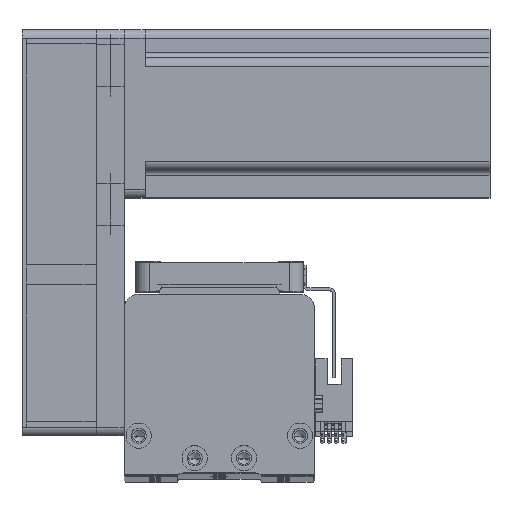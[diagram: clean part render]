
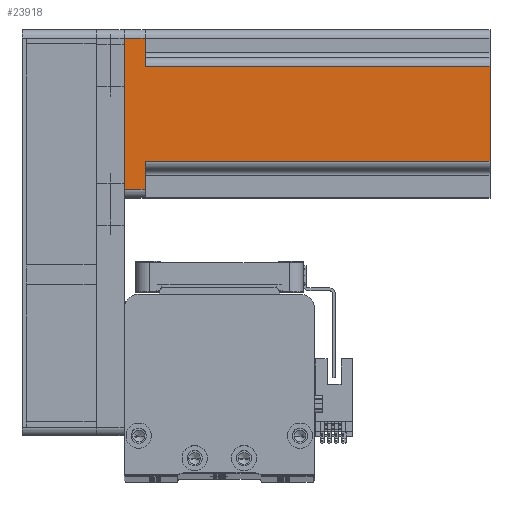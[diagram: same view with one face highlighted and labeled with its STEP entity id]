
A CAD part, top view. The second image highlights one B-rep face of the part: STEP entity #23918.
In plain terms, the highlighted planar face has unit normal (0, 0, 1) as drawn and (0, 1, 0) by its records, which use the part's own axes.
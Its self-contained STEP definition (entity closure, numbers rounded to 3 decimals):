
#399 = LINE ( 'NONE', #48855, #2821 ) ;
#1031 = VERTEX_POINT ( 'NONE', #28267 ) ;
#2271 = ORIENTED_EDGE ( 'NONE', *, *, #45457, .T. ) ;
#2821 = VECTOR ( 'NONE', #25150, 1000. ) ;
#3781 = DIRECTION ( 'NONE',  ( -1., 0., 0. ) ) ;
#4698 = VERTEX_POINT ( 'NONE', #27632 ) ;
#4842 = DIRECTION ( 'NONE',  ( 0., 0., -1. ) ) ;
#4917 = VECTOR ( 'NONE', #3781, 1000. ) ;
#5200 = PLANE ( 'NONE',  #25099 ) ;
#5374 = DIRECTION ( 'NONE',  ( 0., -1., 0. ) ) ;
#7021 = DIRECTION ( 'NONE',  ( 0., 0., -1. ) ) ;
#7701 = LINE ( 'NONE', #39701, #37676 ) ;
#8181 = EDGE_CURVE ( 'NONE', #18568, #11023, #7701, .T. ) ;
#9008 = LINE ( 'NONE', #41269, #18139 ) ;
#9578 = CARTESIAN_POINT ( 'NONE',  ( -27., 30., 130.7 ) ) ;
#9907 = CARTESIAN_POINT ( 'NONE',  ( 20., 30., 7.5 ) ) ;
#10175 = ORIENTED_EDGE ( 'NONE', *, *, #17696, .F. ) ;
#11023 = VERTEX_POINT ( 'NONE', #32691 ) ;
#11160 = LINE ( 'NONE', #9578, #21543 ) ;
#11358 = FACE_OUTER_BOUND ( 'NONE', #28152, .T. ) ;
#12674 = CARTESIAN_POINT ( 'NONE',  ( 30., 30., 130.7 ) ) ;
#13586 = LINE ( 'NONE', #30279, #22763 ) ;
#16247 = VERTEX_POINT ( 'NONE', #41805 ) ;
#16965 = CARTESIAN_POINT ( 'NONE',  ( 17., 30., 130.7 ) ) ;
#17365 = DIRECTION ( 'NONE',  ( 0., 0., 1. ) ) ;
#17696 = EDGE_CURVE ( 'NONE', #43492, #11023, #24031, .T. ) ;
#18139 = VECTOR ( 'NONE', #37352, 1000. ) ;
#18568 = VERTEX_POINT ( 'NONE', #16965 ) ;
#20074 = VECTOR ( 'NONE', #43609, 1000. ) ;
#21543 = VECTOR ( 'NONE', #17365, 1000. ) ;
#22763 = VECTOR ( 'NONE', #7021, 1000. ) ;
#23918 = ADVANCED_FACE ( 'NONE', ( #11358 ), #5200, .F. ) ;
#24031 = LINE ( 'NONE', #9907, #47212 ) ;
#24046 = EDGE_CURVE ( 'NONE', #1031, #48596, #399, .T. ) ;
#25099 = AXIS2_PLACEMENT_3D ( 'NONE', #28757, #5374, #32701 ) ;
#25150 = DIRECTION ( 'NONE',  ( 1., 0., 0. ) ) ;
#27632 = CARTESIAN_POINT ( 'NONE',  ( -27., 30., 0. ) ) ;
#27947 = EDGE_CURVE ( 'NONE', #18568, #35963, #49996, .T. ) ;
#28152 = EDGE_LOOP ( 'NONE', ( #32978, #50537, #32073, #46440, #10175, #35295, #37917, #2271 ) ) ;
#28267 = CARTESIAN_POINT ( 'NONE',  ( -27., 30., 7.5 ) ) ;
#28757 = CARTESIAN_POINT ( 'NONE',  ( 30., 30., 130.7 ) ) ;
#30279 = CARTESIAN_POINT ( 'NONE',  ( 27., 30., 130.7 ) ) ;
#31088 = CARTESIAN_POINT ( 'NONE',  ( 30., 30., 0. ) ) ;
#31560 = CARTESIAN_POINT ( 'NONE',  ( 27., 30., 7.5 ) ) ;
#32073 = ORIENTED_EDGE ( 'NONE', *, *, #27947, .F. ) ;
#32588 = EDGE_CURVE ( 'NONE', #43492, #16247, #13586, .T. ) ;
#32691 = CARTESIAN_POINT ( 'NONE',  ( 17., 30., 7.5 ) ) ;
#32701 = DIRECTION ( 'NONE',  ( 1., 0., 0. ) ) ;
#32978 = ORIENTED_EDGE ( 'NONE', *, *, #24046, .T. ) ;
#34478 = CARTESIAN_POINT ( 'NONE',  ( -17., 30., 130.7 ) ) ;
#35295 = ORIENTED_EDGE ( 'NONE', *, *, #32588, .T. ) ;
#35433 = EDGE_CURVE ( 'NONE', #16247, #4698, #45238, .T. ) ;
#35963 = VERTEX_POINT ( 'NONE', #34478 ) ;
#36268 = EDGE_CURVE ( 'NONE', #48596, #35963, #9008, .T. ) ;
#37226 = CARTESIAN_POINT ( 'NONE',  ( -17., 30., 7.5 ) ) ;
#37264 = DIRECTION ( 'NONE',  ( -1., 0., 0. ) ) ;
#37352 = DIRECTION ( 'NONE',  ( 0., 0., 1. ) ) ;
#37676 = VECTOR ( 'NONE', #4842, 1000. ) ;
#37917 = ORIENTED_EDGE ( 'NONE', *, *, #35433, .T. ) ;
#39701 = CARTESIAN_POINT ( 'NONE',  ( 17., 30., 130.7 ) ) ;
#41269 = CARTESIAN_POINT ( 'NONE',  ( -17., 30., 130.7 ) ) ;
#41805 = CARTESIAN_POINT ( 'NONE',  ( 27., 30., 0. ) ) ;
#43492 = VERTEX_POINT ( 'NONE', #31560 ) ;
#43609 = DIRECTION ( 'NONE',  ( -1., 0., 0. ) ) ;
#45238 = LINE ( 'NONE', #31088, #4917 ) ;
#45457 = EDGE_CURVE ( 'NONE', #4698, #1031, #11160, .T. ) ;
#46440 = ORIENTED_EDGE ( 'NONE', *, *, #8181, .T. ) ;
#47212 = VECTOR ( 'NONE', #37264, 1000. ) ;
#48596 = VERTEX_POINT ( 'NONE', #37226 ) ;
#48855 = CARTESIAN_POINT ( 'NONE',  ( -20., 30., 7.5 ) ) ;
#49996 = LINE ( 'NONE', #12674, #20074 ) ;
#50537 = ORIENTED_EDGE ( 'NONE', *, *, #36268, .T. ) ;
